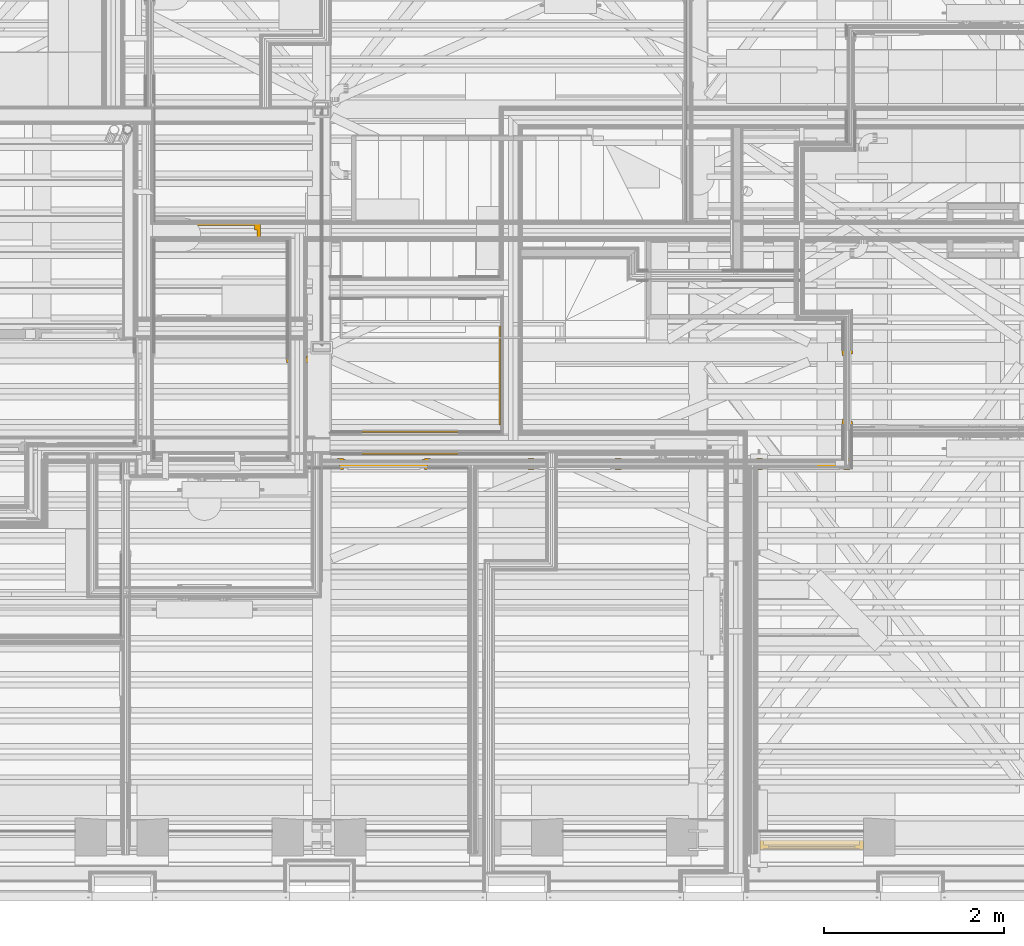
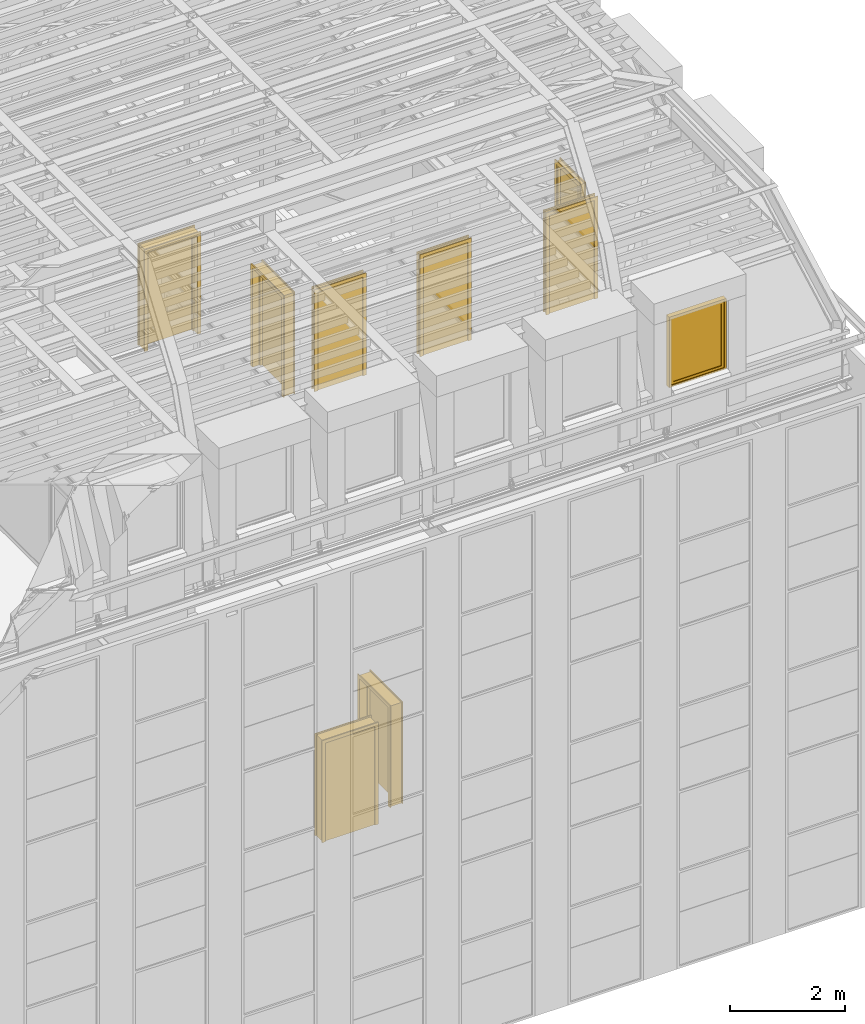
# One storey, part 142 of 183: 8 doors, 1 window.
"""IFC2X3 building model written with IfcOpenShell, lengths in metres."""

from ifc_helpers import new_model, entity, si_unit, converted_unit, derived_unit, money_unit, direction, frame, origin_with_axes, place, context, subcontext, project, spatial, faceted_brep, material, type_object, element, save


model = new_model("IFC2X3")

# Units and contexts
model_context = context("Model", 3, precision=1e-05, world=origin_with_axes(), true_north=direction((0.0, 1.0)))
body_context = subcontext(model_context, "Body", "Model", "MODEL_VIEW", scale=1.0)
ifc_project = project(units=[si_unit("LENGTHUNIT", "METRE"), si_unit("AREAUNIT", "SQUARE_METRE"), si_unit("VOLUMEUNIT", "CUBIC_METRE"), si_unit("ABSORBEDDOSEUNIT", "GRAY"), si_unit("AMOUNTOFSUBSTANCEUNIT", "MOLE"), si_unit("DOSEEQUIVALENTUNIT", "SIEVERT"), si_unit("ELECTRICCAPACITANCEUNIT", "FARAD"), si_unit("ELECTRICCHARGEUNIT", "COULOMB"), si_unit("ELECTRICCONDUCTANCEUNIT", "SIEMENS"), si_unit("ELECTRICCURRENTUNIT", "AMPERE"), si_unit("ELECTRICRESISTANCEUNIT", "OHM"), si_unit("ELECTRICVOLTAGEUNIT", "VOLT"), si_unit("ENERGYUNIT", "JOULE"), si_unit("FORCEUNIT", "NEWTON"), si_unit("FREQUENCYUNIT", "HERTZ"), si_unit("ILLUMINANCEUNIT", "LUX"), si_unit("INDUCTANCEUNIT", "HENRY"), si_unit("LUMINOUSFLUXUNIT", "LUMEN"), si_unit("LUMINOUSINTENSITYUNIT", "CANDELA"), si_unit("MAGNETICFLUXDENSITYUNIT", "TESLA"), si_unit("MAGNETICFLUXUNIT", "WEBER"), si_unit("MASSUNIT", "GRAM"), converted_unit("PLANEANGLEUNIT", "degree", entity("IfcReal", 0.0174532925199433), si_unit("PLANEANGLEUNIT", "RADIAN"), dimensions=[0, 0, 0, 0, 0, 0, 0]), si_unit("POWERUNIT", "WATT"), si_unit("PRESSUREUNIT", "PASCAL"), si_unit("RADIOACTIVITYUNIT", "BECQUEREL"), si_unit("SOLIDANGLEUNIT", "STERADIAN"), si_unit("THERMODYNAMICTEMPERATUREUNIT", "KELVIN"), si_unit("TIMEUNIT", "SECOND"), derived_unit("ACCELERATIONUNIT", [(si_unit("LENGTHUNIT", "METRE"), 1), (si_unit("TIMEUNIT", "SECOND"), -2)]), derived_unit("ANGULARVELOCITYUNIT", [(converted_unit("PLANEANGLEUNIT", "degree", entity("IfcReal", 0.0174532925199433), si_unit("PLANEANGLEUNIT", "RADIAN"), dimensions=[0, 0, 0, 0, 0, 0, 0]), 1), (si_unit("TIMEUNIT", "SECOND"), -1)]), derived_unit("CURVATUREUNIT", [(converted_unit("PLANEANGLEUNIT", "degree", entity("IfcReal", 0.0174532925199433), si_unit("PLANEANGLEUNIT", "RADIAN"), dimensions=[0, 0, 0, 0, 0, 0, 0]), 1), (si_unit("LENGTHUNIT", "METRE"), -1)]), derived_unit("DYNAMICVISCOSITYUNIT", [(si_unit("PRESSUREUNIT", "PASCAL"), 1), (si_unit("TIMEUNIT", "SECOND"), 1)]), derived_unit("HEATFLUXDENSITYUNIT", [(si_unit("POWERUNIT", "WATT"), 1), (si_unit("LENGTHUNIT", "METRE"), -2)]), derived_unit("HEATINGVALUEUNIT", [(si_unit("ENERGYUNIT", "JOULE"), 1), (si_unit("MASSUNIT", "GRAM"), -1)]), derived_unit("INTEGERCOUNTRATEUNIT", [(si_unit("TIMEUNIT", "SECOND"), -1)]), derived_unit("IONCONCENTRATIONUNIT", [(si_unit("MASSUNIT", "GRAM"), 1), (si_unit("VOLUMEUNIT", "CUBIC_METRE"), -1)]), derived_unit("ISOTHERMALMOISTURECAPACITYUNIT", [(si_unit("VOLUMEUNIT", "CUBIC_METRE"), 1), (si_unit("MASSUNIT", "GRAM"), -1)]), derived_unit("KINEMATICVISCOSITYUNIT", [(si_unit("AREAUNIT", "SQUARE_METRE"), 1), (si_unit("TIMEUNIT", "SECOND"), -1)]), derived_unit("LINEARFORCEUNIT", [(si_unit("FORCEUNIT", "NEWTON"), 1), (si_unit("LENGTHUNIT", "METRE"), -1)]), derived_unit("LINEARMOMENTUNIT", [(si_unit("FORCEUNIT", "NEWTON"), 1), (si_unit("LENGTHUNIT", "METRE"), -1)]), derived_unit("LINEARSTIFFNESSUNIT", [(si_unit("FORCEUNIT", "NEWTON"), 1), (si_unit("LENGTHUNIT", "METRE"), -1)]), derived_unit("LINEARVELOCITYUNIT", [(si_unit("LENGTHUNIT", "METRE"), 1), (si_unit("TIMEUNIT", "SECOND"), -1)]), derived_unit("LUMINOUSINTENSITYDISTRIBUTIONUNIT", [(si_unit("LUMINOUSINTENSITYUNIT", "CANDELA"), 1), (si_unit("LUMINOUSFLUXUNIT", "LUMEN"), -1)]), derived_unit("MASSDENSITYUNIT", [(si_unit("MASSUNIT", "GRAM"), 1), (si_unit("VOLUMEUNIT", "CUBIC_METRE"), -1)]), derived_unit("MASSFLOWRATEUNIT", [(si_unit("MASSUNIT", "GRAM"), 1), (si_unit("TIMEUNIT", "SECOND"), -1)]), derived_unit("MASSPERLENGTHUNIT", [(si_unit("MASSUNIT", "GRAM"), 1), (si_unit("LENGTHUNIT", "METRE"), -1)]), derived_unit("MODULUSOFELASTICITYUNIT", [(si_unit("FORCEUNIT", "NEWTON"), 1), (si_unit("AREAUNIT", "SQUARE_METRE"), -1)]), derived_unit("MODULUSOFLINEARSUBGRADEREACTIONUNIT", [(si_unit("FORCEUNIT", "NEWTON"), 1), (si_unit("LENGTHUNIT", "METRE"), -2)]), derived_unit("MODULUSOFROTATIONALSUBGRADEREACTIONUNIT", [(si_unit("FORCEUNIT", "NEWTON"), 1), (si_unit("LENGTHUNIT", "METRE"), 1)]), derived_unit("MODULUSOFSUBGRADEREACTIONUNIT", [(si_unit("FORCEUNIT", "NEWTON"), 1), (si_unit("VOLUMEUNIT", "CUBIC_METRE"), -1)]), derived_unit("MOISTUREDIFFUSIVITYUNIT", [(si_unit("VOLUMEUNIT", "CUBIC_METRE"), 1), (si_unit("TIMEUNIT", "SECOND"), -1)]), derived_unit("MOLECULARWEIGHTUNIT", [(si_unit("MASSUNIT", "GRAM"), 1), (si_unit("AMOUNTOFSUBSTANCEUNIT", "MOLE"), -1)]), derived_unit("PLANARFORCEUNIT", [(si_unit("FORCEUNIT", "NEWTON"), 1), (si_unit("LENGTHUNIT", "METRE"), -2)]), derived_unit("ROTATIONALFREQUENCYUNIT", [(si_unit("TIMEUNIT", "SECOND"), -1)]), derived_unit("ROTATIONALMASSUNIT", [(si_unit("MASSUNIT", "GRAM"), 1), (si_unit("LENGTHUNIT", "METRE"), 2)]), derived_unit("ROTATIONALSTIFFNESSUNIT", [(si_unit("FORCEUNIT", "NEWTON"), 1), (si_unit("LENGTHUNIT", "METRE"), 1), (converted_unit("PLANEANGLEUNIT", "degree", entity("IfcReal", 0.0174532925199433), si_unit("PLANEANGLEUNIT", "RADIAN"), dimensions=[0, 0, 0, 0, 0, 0, 0]), -1)]), derived_unit("SECTIONAREAINTEGRALUNIT", [(si_unit("LENGTHUNIT", "METRE"), 5)]), derived_unit("SECTIONMODULUSUNIT", [(si_unit("LENGTHUNIT", "METRE"), 3)]), derived_unit("SHEARMODULUSUNIT", [(si_unit("FORCEUNIT", "NEWTON"), 1), (si_unit("AREAUNIT", "SQUARE_METRE"), -1)]), derived_unit("SOUNDPOWERUNIT", [(si_unit("ENERGYUNIT", "JOULE"), 1), (si_unit("TIMEUNIT", "SECOND"), -1)]), derived_unit("SPECIFICHEATCAPACITYUNIT", [(si_unit("FORCEUNIT", "NEWTON"), 1), (si_unit("MASSUNIT", "GRAM"), -1), (si_unit("THERMODYNAMICTEMPERATUREUNIT", "KELVIN"), -1)]), derived_unit("TEMPERATUREGRADIENTUNIT", [(si_unit("THERMODYNAMICTEMPERATUREUNIT", "KELVIN"), 1), (si_unit("LENGTHUNIT", "METRE"), -1)]), derived_unit("THERMALADMITTANCEUNIT", [(si_unit("POWERUNIT", "WATT"), 1), (si_unit("AREAUNIT", "SQUARE_METRE"), -1), (si_unit("THERMODYNAMICTEMPERATUREUNIT", "KELVIN"), -1)]), derived_unit("THERMALCONDUCTANCEUNIT", [(si_unit("POWERUNIT", "WATT"), 1), (si_unit("LENGTHUNIT", "METRE"), -1), (si_unit("THERMODYNAMICTEMPERATUREUNIT", "KELVIN"), -1)]), derived_unit("THERMALEXPANSIONCOEFFICIENTUNIT", [(si_unit("THERMODYNAMICTEMPERATUREUNIT", "KELVIN"), -1)]), derived_unit("THERMALRESISTANCEUNIT", [(si_unit("AREAUNIT", "SQUARE_METRE"), 1), (si_unit("POWERUNIT", "WATT"), -1)]), derived_unit("THERMALTRANSMITTANCEUNIT", [(si_unit("POWERUNIT", "WATT"), 1), (si_unit("AREAUNIT", "SQUARE_METRE"), -1), (si_unit("THERMODYNAMICTEMPERATUREUNIT", "KELVIN"), -1)]), derived_unit("TORQUEUNIT", [(si_unit("FORCEUNIT", "NEWTON"), 1), (si_unit("LENGTHUNIT", "METRE"), 1)]), derived_unit("VAPORPERMEABILITYUNIT", [(si_unit("MASSUNIT", "GRAM"), 1), (si_unit("TIMEUNIT", "SECOND"), -1)]), derived_unit("VOLUMETRICFLOWRATEUNIT", [(si_unit("VOLUMEUNIT", "CUBIC_METRE"), 1), (si_unit("TIMEUNIT", "SECOND"), -1)]), derived_unit("WARPINGCONSTANTUNIT", [(si_unit("LENGTHUNIT", "METRE"), 6)]), derived_unit("WARPINGMOMENTUNIT", [(si_unit("FORCEUNIT", "NEWTON"), 1), (si_unit("LENGTHUNIT", "METRE"), 2)]), money_unit("GBP")], contexts=[model_context])

# Site, building, storey, space
site_placement = place(None, origin_with_axes())
site = spatial("IfcSite", under=ifc_project, at=site_placement, Name="Site", CompositionType="ELEMENT")
building_placement = place(site_placement, origin_with_axes())
building = spatial("IfcBuilding", under=site, at=building_placement, Name="Building01", CompositionType="ELEMENT")
storey_placement = place(building_placement, frame((0.0, 0.0, 5.15), z_axis=(0.0, 0.0, 1.0), x_axis=(1.0, 0.0, 0.0)))
storey = spatial("IfcBuildingStorey", under=building, at=storey_placement, Name="1F", CompositionType="ELEMENT", Elevation=5.15)
space_1_placement = place(storey_placement, frame((22.740024, 4.817, 9.81), z_axis=(0.0, 0.0, 1.0), x_axis=(0.0, -1.0, 0.0)))
space_1 = spatial("IfcSpace", under=storey, at=space_1_placement, Name="3", CompositionType="ELEMENT", InteriorOrExteriorSpace="NOTDEFINED")

# Window
ifc_material_1 = material(Name="A_BSUK_Windows")
window_style = type_object("IfcWindowStyle", Name="A-Awning", ConstructionType="NOTDEFINED", OperationType="USERDEFINED", ParameterTakesPrecedence=False, Sizeable=False)
window_placement = place(storey_placement, frame((23.930024, 0.549939, 10.78), z_axis=(0.0, 0.0, 1.0), x_axis=(1.0, 0.0, 0.0)))
element("IfcWindow", 1, at=window_placement, inside=space_1, type_object=window_style, material=ifc_material_1, Name="4.10", ObjectType="A-Awning", OverallHeight=1.50000000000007, OverallWidth=1.15000000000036, context=body_context, shape_type="Brep", body=[
    faceted_brep([(-1.108, 0.0254, 0.042), (-0.042, 0.0254, 0.042), (-0.042, 0.1254, 0.042), (-1.108, 0.1254, 0.042), (-1.108, 0.0254, 1.458), (-1.108, 0.1254, 1.458), (-0.042, 0.0254, 1.458), (-0.042, 0.1254, 1.458), (0.0, 0.0254, 0.0), (0.0, 0.0254, 1.5), (-1.15, 0.0254, 1.5), (-1.15, 0.0254, 0.0), (0.0, 0.1254, 1.5), (-1.15, 0.1254, 1.5), (-1.15, 0.1254, 0.0), (0.0, 0.1254, 0.0)], [[[0, 1, 2, 3]], [[4, 0, 3, 5]], [[6, 4, 5, 7]], [[8, 9, 10, 11], [4, 6, 1, 0]], [[1, 6, 7, 2]], [[12, 13, 10, 9]], [[14, 15, 8, 11]], [[13, 14, 11, 10]], [[13, 12, 15, 14], [2, 7, 5, 3]], [[15, 12, 9, 8]]]),
    faceted_brep([(-1.0572, 0.0354, 0.0928), (-0.0928, 0.0354, 0.0928), (-0.0928, 0.0704, 0.0928), (-1.0572, 0.0704, 0.0928), (-1.0572, 0.0354, 1.4072), (-1.0572, 0.0704, 1.4072), (-0.0928, 0.0354, 1.4072), (-0.0928, 0.0704, 1.4072), (-1.108, 0.0704, 1.458), (-0.042, 0.0704, 1.458), (-0.042, 0.0704, 0.042), (-1.108, 0.0704, 0.042), (-1.108, 0.0354, 1.458), (-0.042, 0.0354, 1.458), (-0.042, 0.0354, 0.042), (-1.108, 0.0354, 0.042)], [[[0, 1, 2, 3]], [[4, 0, 3, 5]], [[6, 4, 5, 7]], [[8, 9, 10, 11], [2, 7, 5, 3]], [[9, 8, 12, 13]], [[10, 9, 13, 14]], [[11, 10, 14, 15]], [[8, 11, 15, 12]], [[14, 13, 12, 15], [4, 6, 1, 0]], [[1, 6, 7, 2]]]),
    faceted_brep([(-0.0928, 0.049725, 0.0928), (-0.0928, 0.056075, 0.0928), (-0.0928, 0.056075, 1.4072), (-0.0928, 0.049725, 1.4072), (-1.0572, 0.049725, 1.4072), (-1.0572, 0.056075, 1.4072), (-1.0572, 0.056075, 0.0928), (-1.0572, 0.049725, 0.0928)], [[[0, 1, 2, 3]], [[4, 5, 6, 7]], [[3, 2, 5, 4]], [[3, 4, 7, 0]], [[7, 6, 1, 0]], [[1, 6, 5, 2]]]),
])

# Space
space_2_placement = place(storey_placement, frame((17.73844, 7.349915, 9.81), z_axis=(0.0, 0.0, 1.0), x_axis=(0.0, -1.0, 0.0)))
space_2 = spatial("IfcSpace", under=storey, at=space_2_placement, Name="24", CompositionType="ELEMENT", InteriorOrExteriorSpace="NOTDEFINED")

# Doors
ifc_material_2 = material(Name="A_BSUK_Doors")
door_style_1 = type_object("IfcDoorStyle", Name="A-Doors-SingleFlush", ConstructionType="USERDEFINED", OperationType="SINGLE_SWING_RIGHT", ParameterTakesPrecedence=False, Sizeable=False)
door_1_placement = place(storey_placement, frame((23.71, 4.817, 9.78), z_axis=(0.0, 0.0, 1.0), x_axis=(-1.0, 0.0, 0.0)))
element("IfcDoor", 2, at=door_1_placement, inside=space_2, type_object=door_style_1, material=ifc_material_2, Name="4.14", ObjectType="A-Doors-SingleFlush", OverallHeight=2.16900000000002, OverallWidth=1.03800000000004, context=body_context, shape_type="Brep", body=[
    faceted_brep([(0.9, -0.099, 0.0), (0.969, -0.099, 0.0), (0.969, -0.099, 2.169), (-0.069, -0.099, 2.169), (-0.069, -0.099, 0.0), (0.0, -0.099, 0.0), (0.0, -0.099, 2.1), (0.9, -0.099, 2.1), (-0.069, -0.08, 0.0), (-0.069, -0.08, 2.169), (0.969, -0.08, 2.169), (0.969, -0.08, 0.0), (0.9, 0.019, 0.0), (0.969, 0.019, 0.0), (0.969, 0.0, 0.0), (0.942, 0.0, 0.0), (0.942, -0.08, 0.0), (0.9, 0.019, 2.1), (0.0, 0.019, 2.1), (0.0, 0.019, 0.0), (-0.069, 0.019, 0.0), (-0.069, 0.019, 2.169), (0.969, 0.019, 2.169), (0.969, 0.0, 2.169), (0.942, -0.08, 2.142), (0.942, 0.0, 2.142), (-0.042, -0.08, 2.142), (-0.042, 0.0, 2.142), (-0.042, -0.08, 0.0), (-0.042, 0.0, 0.0), (-0.069, 0.0, 2.169), (-0.069, 0.0, 0.0)], [[[0, 1, 2, 3, 4, 5, 6, 7]], [[8, 4, 3, 9]], [[10, 2, 1, 11]], [[9, 3, 2, 10]], [[12, 13, 14, 15, 16, 11, 1, 0]], [[7, 17, 12, 0]], [[6, 18, 17, 7]], [[18, 19, 20, 21, 22, 13, 12, 17]], [[5, 19, 18, 6]], [[13, 22, 23, 14]], [[24, 16, 15, 25]], [[26, 24, 25, 27]], [[11, 16, 24, 26, 28, 8, 9, 10]], [[27, 29, 28, 26]], [[25, 15, 14, 23, 30, 31, 29, 27]], [[5, 4, 8, 28, 29, 31, 20, 19]], [[30, 21, 20, 31]], [[23, 22, 21, 30]]]),
    faceted_brep([(0.0, -0.09, 2.1), (0.0, -0.04, 2.1), (0.0, -0.04, 0.0), (0.0, -0.09, 0.0), (0.875, -0.09, 0.0), (0.9, -0.09, 0.0), (0.9, -0.09, 2.1), (0.025, -0.09, 0.0), (0.025, -0.09, 2.075), (0.875, -0.09, 2.075), (0.875, -0.04, 0.0), (0.9, -0.04, 0.0), (0.9, -0.04, 2.1), (0.025, -0.04, 2.075), (0.025, -0.04, 0.0), (0.875, -0.04, 2.075)], [[[0, 1, 2, 3]], [[4, 5, 6, 0, 3, 7, 8, 9]], [[10, 11, 5, 4]], [[6, 12, 1, 0]], [[5, 11, 12, 6]], [[13, 14, 2, 1, 12, 11, 10, 15]], [[7, 14, 13, 8]], [[7, 3, 2, 14]], [[9, 15, 10, 4]], [[8, 13, 15, 9]]]),
    faceted_brep([(0.9, -0.04, 0.0), (0.9, 0.0, 0.0), (0.9, 0.0, 2.1), (0.9, -0.04, 2.1), (0.0, -0.04, 2.1), (0.0, 0.0, 2.1), (0.0, 0.0, 0.0), (0.0, -0.04, 0.0)], [[[0, 1, 2, 3]], [[4, 5, 6, 7]], [[7, 6, 1, 0]], [[3, 4, 7, 0]], [[3, 2, 5, 4]], [[1, 6, 5, 2]]]),
])
door_2_placement = place(storey_placement, frame((21.169976, 4.817, 9.78), z_axis=(0.0, 0.0, 1.0), x_axis=(-1.0, 0.0, 0.0)))
element("IfcDoor", 3, at=door_2_placement, inside=space_2, type_object=door_style_1, material=ifc_material_2, Name="4.15", ObjectType="A-Doors-SingleFlush", OverallHeight=2.16900000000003, OverallWidth=1.03800000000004, context=body_context, shape_type="Brep", body=[
    faceted_brep([(0.9, -0.099, 0.0), (0.969, -0.099, 0.0), (0.969, -0.099, 2.169), (-0.069, -0.099, 2.169), (-0.069, -0.099, 0.0), (0.0, -0.099, 0.0), (0.0, -0.099, 2.1), (0.9, -0.099, 2.1), (-0.069, -0.08, 0.0), (-0.069, -0.08, 2.169), (0.969, -0.08, 2.169), (0.969, -0.08, 0.0), (0.9, 0.019, 0.0), (0.969, 0.019, 0.0), (0.969, 0.0, 0.0), (0.942, 0.0, 0.0), (0.942, -0.08, 0.0), (0.9, 0.019, 2.1), (0.0, 0.019, 2.1), (0.0, 0.019, 0.0), (-0.069, 0.019, 0.0), (-0.069, 0.019, 2.169), (0.969, 0.019, 2.169), (0.969, 0.0, 2.169), (0.942, -0.08, 2.142), (0.942, 0.0, 2.142), (-0.042, -0.08, 2.142), (-0.042, 0.0, 2.142), (-0.042, -0.08, 0.0), (-0.042, 0.0, 0.0), (-0.069, 0.0, 2.169), (-0.069, 0.0, 0.0)], [[[0, 1, 2, 3, 4, 5, 6, 7]], [[8, 4, 3, 9]], [[10, 2, 1, 11]], [[9, 3, 2, 10]], [[12, 13, 14, 15, 16, 11, 1, 0]], [[7, 17, 12, 0]], [[6, 18, 17, 7]], [[18, 19, 20, 21, 22, 13, 12, 17]], [[5, 19, 18, 6]], [[13, 22, 23, 14]], [[24, 16, 15, 25]], [[26, 24, 25, 27]], [[11, 16, 24, 26, 28, 8, 9, 10]], [[27, 29, 28, 26]], [[25, 15, 14, 23, 30, 31, 29, 27]], [[5, 4, 8, 28, 29, 31, 20, 19]], [[30, 21, 20, 31]], [[23, 22, 21, 30]]]),
    faceted_brep([(0.0, -0.09, 2.1), (0.0, -0.04, 2.1), (0.0, -0.04, 0.0), (0.0, -0.09, 0.0), (0.875, -0.09, 0.0), (0.9, -0.09, 0.0), (0.9, -0.09, 2.1), (0.025, -0.09, 0.0), (0.025, -0.09, 2.075), (0.875, -0.09, 2.075), (0.875, -0.04, 0.0), (0.9, -0.04, 0.0), (0.9, -0.04, 2.1), (0.025, -0.04, 2.075), (0.025, -0.04, 0.0), (0.875, -0.04, 2.075)], [[[0, 1, 2, 3]], [[4, 5, 6, 0, 3, 7, 8, 9]], [[10, 11, 5, 4]], [[6, 12, 1, 0]], [[5, 11, 12, 6]], [[13, 14, 2, 1, 12, 11, 10, 15]], [[7, 14, 13, 8]], [[7, 3, 2, 14]], [[9, 15, 10, 4]], [[8, 13, 15, 9]]]),
    faceted_brep([(0.9, -0.04, 0.0), (0.9, 0.0, 0.0), (0.9, 0.0, 2.1), (0.9, -0.04, 2.1), (0.0, -0.04, 2.1), (0.0, 0.0, 2.1), (0.0, 0.0, 0.0), (0.0, -0.04, 0.0)], [[[0, 1, 2, 3]], [[4, 5, 6, 7]], [[7, 6, 1, 0]], [[3, 4, 7, 0]], [[3, 2, 5, 4]], [[1, 6, 5, 2]]]),
])
door_3_placement = place(storey_placement, frame((23.79, 6.080939, 9.78), z_axis=(0.0, 0.0, 1.0), x_axis=(0.0, -1.0, 0.0)))
element("IfcDoor", 4, at=door_3_placement, inside=space_2, type_object=door_style_1, material=ifc_material_2, Name="4.17", ObjectType="A-Doors-SingleFlush", OverallHeight=2.16900000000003, OverallWidth=0.88800000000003, context=body_context, shape_type="Brep", body=[
    faceted_brep([(0.75, -0.099, 0.0), (0.819, -0.099, 0.0), (0.819, -0.099, 2.169), (-0.069, -0.099, 2.169), (-0.069, -0.099, 0.0), (0.0, -0.099, 0.0), (0.0, -0.099, 2.1), (0.75, -0.099, 2.1), (-0.069, -0.08, 0.0), (-0.069, -0.08, 2.169), (0.819, -0.08, 2.169), (0.819, -0.08, 0.0), (0.75, 0.019, 0.0), (0.819, 0.019, 0.0), (0.819, 0.0, 0.0), (0.792, 0.0, 0.0), (0.792, -0.08, 0.0), (0.75, 0.019, 2.1), (0.0, 0.019, 2.1), (0.0, 0.019, 0.0), (-0.069, 0.019, 0.0), (-0.069, 0.019, 2.169), (0.819, 0.019, 2.169), (0.819, 0.0, 2.169), (0.792, -0.08, 2.142), (0.792, 0.0, 2.142), (-0.042, -0.08, 2.142), (-0.042, 0.0, 2.142), (-0.042, -0.08, 0.0), (-0.042, 0.0, 0.0), (-0.069, 0.0, 2.169), (-0.069, 0.0, 0.0)], [[[0, 1, 2, 3, 4, 5, 6, 7]], [[8, 4, 3, 9]], [[10, 2, 1, 11]], [[9, 3, 2, 10]], [[12, 13, 14, 15, 16, 11, 1, 0]], [[7, 17, 12, 0]], [[6, 18, 17, 7]], [[18, 19, 20, 21, 22, 13, 12, 17]], [[5, 19, 18, 6]], [[13, 22, 23, 14]], [[24, 16, 15, 25]], [[26, 24, 25, 27]], [[11, 16, 24, 26, 28, 8, 9, 10]], [[27, 29, 28, 26]], [[25, 15, 14, 23, 30, 31, 29, 27]], [[5, 4, 8, 28, 29, 31, 20, 19]], [[30, 21, 20, 31]], [[23, 22, 21, 30]]]),
    faceted_brep([(0.0, -0.09, 2.1), (0.0, -0.04, 2.1), (0.0, -0.04, 0.0), (0.0, -0.09, 0.0), (0.725, -0.09, 0.0), (0.75, -0.09, 0.0), (0.75, -0.09, 2.1), (0.025, -0.09, 0.0), (0.025, -0.09, 2.075), (0.725, -0.09, 2.075), (0.725, -0.04, 0.0), (0.75, -0.04, 0.0), (0.75, -0.04, 2.1), (0.025, -0.04, 2.075), (0.025, -0.04, 0.0), (0.725, -0.04, 2.075)], [[[0, 1, 2, 3]], [[4, 5, 6, 0, 3, 7, 8, 9]], [[10, 11, 5, 4]], [[6, 12, 1, 0]], [[5, 11, 12, 6]], [[13, 14, 2, 1, 12, 11, 10, 15]], [[7, 14, 13, 8]], [[7, 3, 2, 14]], [[9, 15, 10, 4]], [[8, 13, 15, 9]]]),
    faceted_brep([(0.75, -0.04, 0.0), (0.75, 0.0, 0.0), (0.75, 0.0, 2.1), (0.75, -0.04, 2.1), (0.0, -0.04, 2.1), (0.0, 0.0, 2.1), (0.0, 0.0, 0.0), (0.0, -0.04, 0.0)], [[[0, 1, 2, 3]], [[4, 5, 6, 7]], [[7, 6, 1, 0]], [[3, 4, 7, 0]], [[3, 2, 5, 4]], [[1, 6, 5, 2]]]),
])
door_style_2 = type_object("IfcDoorStyle", Name="A-Doors-SingleFlush", ConstructionType="USERDEFINED", OperationType="SINGLE_SWING_LEFT", ParameterTakesPrecedence=False, Sizeable=False)
door_4_placement = place(storey_placement, frame((19.049976, 4.817, 9.78), z_axis=(0.0, 0.0, 1.0), x_axis=(-1.0, 0.0, 0.0)))
element("IfcDoor", 5, at=door_4_placement, inside=space_2, type_object=door_style_2, material=ifc_material_2, Name="4.16", ObjectType="A-Doors-SingleFlush", OverallHeight=2.16900000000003, OverallWidth=1.03800000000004, context=body_context, shape_type="Brep", body=[
    faceted_brep([(0.0, -0.099, 2.1), (0.9, -0.099, 2.1), (0.9, -0.099, 0.0), (0.969, -0.099, 0.0), (0.969, -0.099, 2.169), (-0.069, -0.099, 2.169), (-0.069, -0.099, 0.0), (0.0, -0.099, 0.0), (0.969, -0.08, 2.169), (0.969, -0.08, 0.0), (-0.069, -0.08, 0.0), (-0.069, -0.08, 2.169), (-0.042, -0.08, 0.0), (-0.042, 0.0, 0.0), (-0.069, 0.0, 0.0), (-0.069, 0.019, 0.0), (0.0, 0.019, 0.0), (0.0, 0.019, 2.1), (0.9, 0.019, 2.1), (-0.069, 0.019, 2.169), (0.969, 0.019, 2.169), (0.969, 0.019, 0.0), (0.9, 0.019, 0.0), (-0.069, 0.0, 2.169), (-0.042, 0.0, 2.142), (-0.042, -0.08, 2.142), (0.942, 0.0, 2.142), (0.942, -0.08, 2.142), (0.942, -0.08, 0.0), (0.942, 0.0, 0.0), (0.969, 0.0, 0.0), (0.969, 0.0, 2.169)], [[[0, 1, 2, 3, 4, 5, 6, 7]], [[8, 4, 3, 9]], [[10, 6, 5, 11]], [[11, 5, 4, 8]], [[7, 6, 10, 12, 13, 14, 15, 16]], [[7, 16, 17, 0]], [[0, 17, 18, 1]], [[17, 16, 15, 19, 20, 21, 22, 18]], [[1, 18, 22, 2]], [[14, 23, 19, 15]], [[24, 13, 12, 25]], [[26, 24, 25, 27]], [[11, 8, 9, 28, 27, 25, 12, 10]], [[27, 28, 29, 26]], [[26, 29, 30, 31, 23, 14, 13, 24]], [[22, 21, 30, 29, 28, 9, 3, 2]], [[30, 21, 20, 31]], [[31, 20, 19, 23]]]),
    faceted_brep([(0.9, -0.09, 0.0), (0.9, -0.04, 0.0), (0.9, -0.04, 2.1), (0.9, -0.09, 2.1), (0.025, -0.09, 2.075), (0.875, -0.09, 2.075), (0.875, -0.09, 0.0), (0.0, -0.09, 2.1), (0.0, -0.09, 0.0), (0.025, -0.09, 0.0), (0.0, -0.04, 0.0), (0.025, -0.04, 0.0), (0.0, -0.04, 2.1), (0.025, -0.04, 2.075), (0.875, -0.04, 0.0), (0.875, -0.04, 2.075)], [[[0, 1, 2, 3]], [[4, 5, 6, 0, 3, 7, 8, 9]], [[9, 8, 10, 11]], [[3, 2, 12, 7]], [[7, 12, 10, 8]], [[13, 11, 10, 12, 2, 1, 14, 15]], [[5, 15, 14, 6]], [[14, 1, 0, 6]], [[9, 11, 13, 4]], [[4, 13, 15, 5]]]),
    faceted_brep([(0.0, -0.04, 2.1), (0.0, 0.0, 2.1), (0.0, 0.0, 0.0), (0.0, -0.04, 0.0), (0.9, -0.04, 0.0), (0.9, 0.0, 0.0), (0.9, 0.0, 2.1), (0.9, -0.04, 2.1)], [[[0, 1, 2, 3]], [[4, 5, 6, 7]], [[3, 2, 5, 4]], [[3, 4, 7, 0]], [[7, 6, 1, 0]], [[1, 6, 5, 2]]]),
])

# Space
space_3_placement = place(storey_placement, frame((20.122661, 5.205, 0.017975), z_axis=(0.0, 0.0, 1.0), x_axis=(1.0, 0.0, 0.0)))
space_3 = spatial("IfcSpace", under=storey, at=space_3_placement, Name="03", CompositionType="ELEMENT", InteriorOrExteriorSpace="NOTDEFINED")

# Door
door_style_3 = type_object("IfcDoorStyle", Name="A-Doors-SingleFlush", ConstructionType="USERDEFINED", OperationType="SINGLE_SWING_RIGHT", ParameterTakesPrecedence=False, Sizeable=False)
door_5_placement = place(storey_placement, frame((20.122661, 6.357147, 0.0), z_axis=(0.0, 0.0, 1.0), x_axis=(0.0, -1.0, 0.0)))
element("IfcDoor", 6, at=door_5_placement, inside=space_3, type_object=door_style_3, material=ifc_material_2, Name="1.10", ObjectType="A-Doors-SingleFlush", OverallHeight=2.16900000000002, OverallWidth=1.13800000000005, context=body_context, shape_type="Brep", body=[
    faceted_brep([(1.0, -0.244, 0.0), (1.069, -0.244, 0.0), (1.069, -0.244, 2.169), (-0.069, -0.244, 2.169), (-0.069, -0.244, 0.0), (0.0, -0.244, 0.0), (0.0, -0.244, 2.1), (1.0, -0.244, 2.1), (-0.069, -0.225, 0.0), (-0.069, -0.225, 2.169), (1.069, -0.225, 2.169), (1.069, -0.225, 0.0), (1.0, 0.019, 0.0), (1.069, 0.019, 0.0), (1.069, 0.0, 0.0), (1.042, 0.0, 0.0), (1.042, -0.225, 0.0), (1.0, 0.019, 2.1), (0.0, 0.019, 2.1), (0.0, 0.019, 0.0), (-0.069, 0.019, 0.0), (-0.069, 0.019, 2.169), (1.069, 0.019, 2.169), (1.069, 0.0, 2.169), (1.042, -0.225, 2.142), (1.042, 0.0, 2.142), (-0.042, -0.225, 2.142), (-0.042, 0.0, 2.142), (-0.042, -0.225, 0.0), (-0.042, 0.0, 0.0), (-0.069, 0.0, 2.169), (-0.069, 0.0, 0.0)], [[[0, 1, 2, 3, 4, 5, 6, 7]], [[8, 4, 3, 9]], [[10, 2, 1, 11]], [[9, 3, 2, 10]], [[12, 13, 14, 15, 16, 11, 1, 0]], [[7, 17, 12, 0]], [[6, 18, 17, 7]], [[18, 19, 20, 21, 22, 13, 12, 17]], [[5, 19, 18, 6]], [[13, 22, 23, 14]], [[24, 16, 15, 25]], [[26, 24, 25, 27]], [[11, 16, 24, 26, 28, 8, 9, 10]], [[27, 29, 28, 26]], [[25, 15, 14, 23, 30, 31, 29, 27]], [[5, 4, 8, 28, 29, 31, 20, 19]], [[30, 21, 20, 31]], [[23, 22, 21, 30]]]),
    faceted_brep([(0.0, -0.09, 2.1), (0.0, -0.04, 2.1), (0.0, -0.04, 0.0), (0.0, -0.09, 0.0), (0.975, -0.09, 0.0), (1.0, -0.09, 0.0), (1.0, -0.09, 2.1), (0.025, -0.09, 0.0), (0.025, -0.09, 2.075), (0.975, -0.09, 2.075), (0.975, -0.04, 0.0), (1.0, -0.04, 0.0), (1.0, -0.04, 2.1), (0.025, -0.04, 2.075), (0.025, -0.04, 0.0), (0.975, -0.04, 2.075)], [[[0, 1, 2, 3]], [[4, 5, 6, 0, 3, 7, 8, 9]], [[10, 11, 5, 4]], [[6, 12, 1, 0]], [[5, 11, 12, 6]], [[13, 14, 2, 1, 12, 11, 10, 15]], [[7, 14, 13, 8]], [[7, 3, 2, 14]], [[9, 15, 10, 4]], [[8, 13, 15, 9]]]),
    faceted_brep([(1.0, -0.04, 0.0), (1.0, 0.0, 0.0), (1.0, 0.0, 2.1), (1.0, -0.04, 2.1), (0.0, -0.04, 2.1), (0.0, 0.0, 2.1), (0.0, 0.0, 0.0), (0.0, -0.04, 0.0)], [[[0, 1, 2, 3]], [[4, 5, 6, 7]], [[7, 6, 1, 0]], [[3, 4, 7, 0]], [[3, 2, 5, 4]], [[1, 6, 5, 2]]]),
])

# Space
space_4_placement = place(storey_placement, frame((14.85, 4.98, 0.017975), z_axis=(0.0, 0.0, 1.0), x_axis=(0.0, -1.0, 0.0)))
space_4 = spatial("IfcSpace", under=storey, at=space_4_placement, Name="04", CompositionType="ELEMENT", InteriorOrExteriorSpace="NOTDEFINED")

# Door
door_style_4 = type_object("IfcDoorStyle", Name="A-Doors-SingleFlush", ConstructionType="USERDEFINED", OperationType="SINGLE_SWING_LEFT", ParameterTakesPrecedence=False, Sizeable=False)
door_6_placement = place(storey_placement, frame((19.392, 4.98, 0.0), z_axis=(0.0, 0.0, 1.0), x_axis=(-1.0, 0.0, 0.0)))
element("IfcDoor", 7, at=door_6_placement, inside=space_4, type_object=door_style_4, material=ifc_material_2, Name="1.12", ObjectType="A-Doors-SingleFlush", OverallHeight=2.16900000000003, OverallWidth=1.13800000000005, context=body_context, shape_type="Brep", body=[
    faceted_brep([(0.0, -0.244, 2.1), (1.0, -0.244, 2.1), (1.0, -0.244, 0.0), (1.069, -0.244, 0.0), (1.069, -0.244, 2.169), (-0.069, -0.244, 2.169), (-0.069, -0.244, 0.0), (0.0, -0.244, 0.0), (1.069, -0.225, 2.169), (1.069, -0.225, 0.0), (-0.069, -0.225, 0.0), (-0.069, -0.225, 2.169), (-0.042, -0.225, 0.0), (-0.042, 0.0, 0.0), (-0.069, 0.0, 0.0), (-0.069, 0.019, 0.0), (0.0, 0.019, 0.0), (0.0, 0.019, 2.1), (1.0, 0.019, 2.1), (-0.069, 0.019, 2.169), (1.069, 0.019, 2.169), (1.069, 0.019, 0.0), (1.0, 0.019, 0.0), (-0.069, 0.0, 2.169), (-0.042, 0.0, 2.142), (-0.042, -0.225, 2.142), (1.042, 0.0, 2.142), (1.042, -0.225, 2.142), (1.042, -0.225, 0.0), (1.042, 0.0, 0.0), (1.069, 0.0, 0.0), (1.069, 0.0, 2.169)], [[[0, 1, 2, 3, 4, 5, 6, 7]], [[8, 4, 3, 9]], [[10, 6, 5, 11]], [[11, 5, 4, 8]], [[7, 6, 10, 12, 13, 14, 15, 16]], [[7, 16, 17, 0]], [[0, 17, 18, 1]], [[17, 16, 15, 19, 20, 21, 22, 18]], [[1, 18, 22, 2]], [[14, 23, 19, 15]], [[24, 13, 12, 25]], [[26, 24, 25, 27]], [[11, 8, 9, 28, 27, 25, 12, 10]], [[27, 28, 29, 26]], [[26, 29, 30, 31, 23, 14, 13, 24]], [[22, 21, 30, 29, 28, 9, 3, 2]], [[30, 21, 20, 31]], [[31, 20, 19, 23]]]),
    faceted_brep([(1.0, -0.09, 0.0), (1.0, -0.04, 0.0), (1.0, -0.04, 2.1), (1.0, -0.09, 2.1), (0.025, -0.09, 2.075), (0.975, -0.09, 2.075), (0.975, -0.09, 0.0), (0.0, -0.09, 2.1), (0.0, -0.09, 0.0), (0.025, -0.09, 0.0), (0.0, -0.04, 0.0), (0.025, -0.04, 0.0), (0.0, -0.04, 2.1), (0.025, -0.04, 2.075), (0.975, -0.04, 0.0), (0.975, -0.04, 2.075)], [[[0, 1, 2, 3]], [[4, 5, 6, 0, 3, 7, 8, 9]], [[9, 8, 10, 11]], [[3, 2, 12, 7]], [[7, 12, 10, 8]], [[13, 11, 10, 12, 2, 1, 14, 15]], [[5, 15, 14, 6]], [[14, 1, 0, 6]], [[9, 11, 13, 4]], [[4, 13, 15, 5]]]),
    faceted_brep([(0.0, -0.04, 2.1), (0.0, 0.0, 2.1), (0.0, 0.0, 0.0), (0.0, -0.04, 0.0), (1.0, -0.04, 0.0), (1.0, 0.0, 0.0), (1.0, 0.0, 2.1), (1.0, -0.04, 2.1)], [[[0, 1, 2, 3]], [[4, 5, 6, 7]], [[3, 2, 5, 4]], [[3, 4, 7, 0]], [[7, 6, 1, 0]], [[1, 6, 5, 2]]]),
])

# Space
space_5_placement = place(storey_placement, frame((16.03844, 8.82, 9.81), z_axis=(0.0, 0.0, 1.0), x_axis=(0.0, -1.0, 0.0)))
space_5 = spatial("IfcSpace", under=storey, at=space_5_placement, Name="23", CompositionType="ELEMENT", InteriorOrExteriorSpace="NOTDEFINED")

# Door
door_style_5 = type_object("IfcDoorStyle", Name="A-Doors-SingleFlush", ConstructionType="USERDEFINED", OperationType="SINGLE_SWING_LEFT", ParameterTakesPrecedence=False, Sizeable=False)
door_7_placement = place(storey_placement, frame((16.18844, 7.549915, 9.78), z_axis=(0.0, 0.0, 1.0), x_axis=(1.0, 0.0, 0.0)))
element("IfcDoor", 8, at=door_7_placement, inside=space_5, type_object=door_style_5, material=ifc_material_2, Name="4.07", ObjectType="A-Doors-SingleFlush", OverallHeight=2.16900000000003, OverallWidth=1.13800000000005, context=body_context, shape_type="Brep", body=[
    faceted_brep([(0.0, -0.219, 2.1), (1.0, -0.219, 2.1), (1.0, -0.219, 0.0), (1.069, -0.219, 0.0), (1.069, -0.219, 2.169), (-0.069, -0.219, 2.169), (-0.069, -0.219, 0.0), (0.0, -0.219, 0.0), (1.069, -0.2, 2.169), (1.069, -0.2, 0.0), (-0.069, -0.2, 0.0), (-0.069, -0.2, 2.169), (-0.042, -0.2, 0.0), (-0.042, 0.0, 0.0), (-0.069, 0.0, 0.0), (-0.069, 0.019, 0.0), (0.0, 0.019, 0.0), (0.0, 0.019, 2.1), (1.0, 0.019, 2.1), (-0.069, 0.019, 2.169), (1.069, 0.019, 2.169), (1.069, 0.019, 0.0), (1.0, 0.019, 0.0), (-0.069, 0.0, 2.169), (-0.042, 0.0, 2.142), (-0.042, -0.2, 2.142), (1.042, 0.0, 2.142), (1.042, -0.2, 2.142), (1.042, -0.2, 0.0), (1.042, 0.0, 0.0), (1.069, 0.0, 0.0), (1.069, 0.0, 2.169)], [[[0, 1, 2, 3, 4, 5, 6, 7]], [[8, 4, 3, 9]], [[10, 6, 5, 11]], [[11, 5, 4, 8]], [[7, 6, 10, 12, 13, 14, 15, 16]], [[7, 16, 17, 0]], [[0, 17, 18, 1]], [[17, 16, 15, 19, 20, 21, 22, 18]], [[1, 18, 22, 2]], [[14, 23, 19, 15]], [[24, 13, 12, 25]], [[26, 24, 25, 27]], [[11, 8, 9, 28, 27, 25, 12, 10]], [[27, 28, 29, 26]], [[26, 29, 30, 31, 23, 14, 13, 24]], [[22, 21, 30, 29, 28, 9, 3, 2]], [[30, 21, 20, 31]], [[31, 20, 19, 23]]]),
    faceted_brep([(1.0, -0.09, 0.0), (1.0, -0.04, 0.0), (1.0, -0.04, 2.1), (1.0, -0.09, 2.1), (0.025, -0.09, 2.075), (0.975, -0.09, 2.075), (0.975, -0.09, 0.0), (0.0, -0.09, 2.1), (0.0, -0.09, 0.0), (0.025, -0.09, 0.0), (0.0, -0.04, 0.0), (0.025, -0.04, 0.0), (0.0, -0.04, 2.1), (0.025, -0.04, 2.075), (0.975, -0.04, 0.0), (0.975, -0.04, 2.075)], [[[0, 1, 2, 3]], [[4, 5, 6, 0, 3, 7, 8, 9]], [[9, 8, 10, 11]], [[3, 2, 12, 7]], [[7, 12, 10, 8]], [[13, 11, 10, 12, 2, 1, 14, 15]], [[5, 15, 14, 6]], [[14, 1, 0, 6]], [[9, 11, 13, 4]], [[4, 13, 15, 5]]]),
    faceted_brep([(0.0, -0.04, 2.1), (0.0, 0.0, 2.1), (0.0, 0.0, 0.0), (0.0, -0.04, 0.0), (1.0, -0.04, 0.0), (1.0, 0.0, 0.0), (1.0, 0.0, 2.1), (1.0, -0.04, 2.1)], [[[0, 1, 2, 3]], [[4, 5, 6, 7]], [[3, 2, 5, 4]], [[3, 4, 7, 0]], [[7, 6, 1, 0]], [[1, 6, 5, 2]]]),
])

# Space
space_6_placement = place(storey_placement, frame((17.738128, 6.449915, 9.81), z_axis=(0.0, 0.0, 1.0), x_axis=(0.0, -1.0, 0.0)))
space_6 = spatial("IfcSpace", under=storey, at=space_6_placement, Name="corridor (protected)", CompositionType="ELEMENT", InteriorOrExteriorSpace="NOTDEFINED")

# Door
door_8_placement = place(storey_placement, frame((17.73844, 5.986, 9.78), z_axis=(0.0, 0.0, 1.0), x_axis=(0.0, -1.0, 0.0)))
element("IfcDoor", 9, at=door_8_placement, inside=space_6, type_object=door_style_5, material=ifc_material_2, Name="4.12", ObjectType="A-Doors-SingleFlush", OverallHeight=2.16900000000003, OverallWidth=1.13800000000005, context=body_context, shape_type="Brep", body=[
    faceted_brep([(0.0, -0.219, 2.1), (1.0, -0.219, 2.1), (1.0, -0.219, 0.0), (1.069, -0.219, 0.0), (1.069, -0.219, 2.169), (-0.069, -0.219, 2.169), (-0.069, -0.219, 0.0), (0.0, -0.219, 0.0), (1.069, -0.2, 2.169), (1.069, -0.2, 0.0), (-0.069, -0.2, 0.0), (-0.069, -0.2, 2.169), (-0.042, -0.2, 0.0), (-0.042, 0.0, 0.0), (-0.069, 0.0, 0.0), (-0.069, 0.019, 0.0), (0.0, 0.019, 0.0), (0.0, 0.019, 2.1), (1.0, 0.019, 2.1), (-0.069, 0.019, 2.169), (1.069, 0.019, 2.169), (1.069, 0.019, 0.0), (1.0, 0.019, 0.0), (-0.069, 0.0, 2.169), (-0.042, 0.0, 2.142), (-0.042, -0.2, 2.142), (1.042, 0.0, 2.142), (1.042, -0.2, 2.142), (1.042, -0.2, 0.0), (1.042, 0.0, 0.0), (1.069, 0.0, 0.0), (1.069, 0.0, 2.169)], [[[0, 1, 2, 3, 4, 5, 6, 7]], [[8, 4, 3, 9]], [[10, 6, 5, 11]], [[11, 5, 4, 8]], [[7, 6, 10, 12, 13, 14, 15, 16]], [[7, 16, 17, 0]], [[0, 17, 18, 1]], [[17, 16, 15, 19, 20, 21, 22, 18]], [[1, 18, 22, 2]], [[14, 23, 19, 15]], [[24, 13, 12, 25]], [[26, 24, 25, 27]], [[11, 8, 9, 28, 27, 25, 12, 10]], [[27, 28, 29, 26]], [[26, 29, 30, 31, 23, 14, 13, 24]], [[22, 21, 30, 29, 28, 9, 3, 2]], [[30, 21, 20, 31]], [[31, 20, 19, 23]]]),
    faceted_brep([(1.0, -0.09, 0.0), (1.0, -0.04, 0.0), (1.0, -0.04, 2.1), (1.0, -0.09, 2.1), (0.025, -0.09, 2.075), (0.975, -0.09, 2.075), (0.975, -0.09, 0.0), (0.0, -0.09, 2.1), (0.0, -0.09, 0.0), (0.025, -0.09, 0.0), (0.0, -0.04, 0.0), (0.025, -0.04, 0.0), (0.0, -0.04, 2.1), (0.025, -0.04, 2.075), (0.975, -0.04, 0.0), (0.975, -0.04, 2.075)], [[[0, 1, 2, 3]], [[4, 5, 6, 0, 3, 7, 8, 9]], [[9, 8, 10, 11]], [[3, 2, 12, 7]], [[7, 12, 10, 8]], [[13, 11, 10, 12, 2, 1, 14, 15]], [[5, 15, 14, 6]], [[14, 1, 0, 6]], [[9, 11, 13, 4]], [[4, 13, 15, 5]]]),
    faceted_brep([(0.0, -0.04, 2.1), (0.0, 0.0, 2.1), (0.0, 0.0, 0.0), (0.0, -0.04, 0.0), (1.0, -0.04, 0.0), (1.0, 0.0, 0.0), (1.0, 0.0, 2.1), (1.0, -0.04, 2.1)], [[[0, 1, 2, 3]], [[4, 5, 6, 7]], [[3, 2, 5, 4]], [[3, 4, 7, 0]], [[7, 6, 1, 0]], [[1, 6, 5, 2]]]),
])

save(model, "model.ifc")
